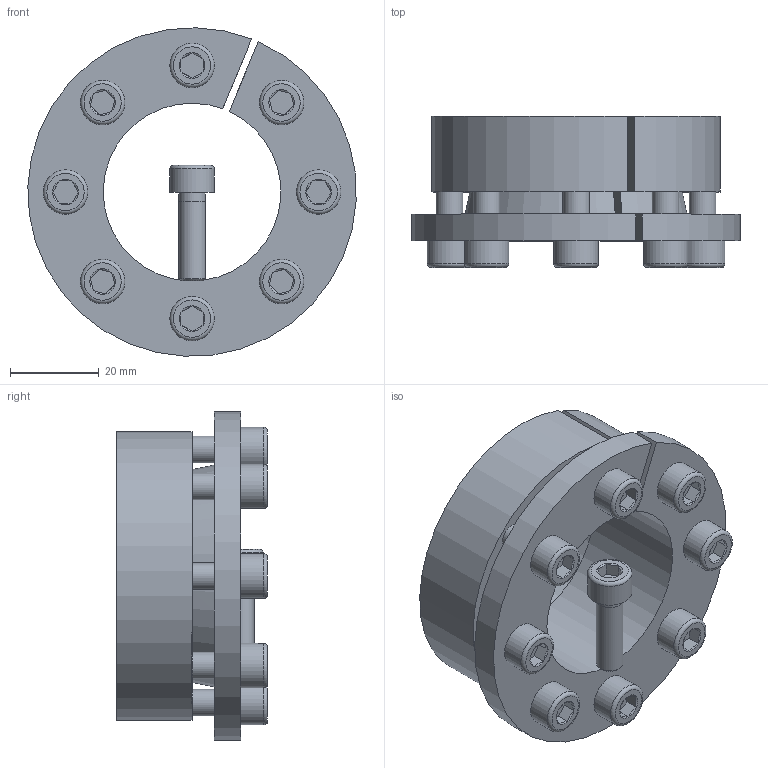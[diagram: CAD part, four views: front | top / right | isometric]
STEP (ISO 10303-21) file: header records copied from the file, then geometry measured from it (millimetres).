
FILE_DESCRIPTION( ( 'Unknown' ), '1' );
FILE_NAME( 'C:/Dokumente und Einstellungen/Sven/Desktop/homepage/cad - homepage/KBS16/KBS 16 - 40 x 65.stp', 'Unknown', ( 'Unknown' ), ( 'Unknown' ), 'XStep 1.0', 'Unknown', ' ' );
FILE_SCHEMA( ( 'automotive_design' ) );
Length unit declared in the file: millimetre
Products named in the file (3): Assem1; KBS 16 - 40 x 65; ISO EN DIN 4762 M6x20
Bounding box: 73.92 x 34 x 73.95 mm (x, y, z)
Volume: 109475.6 mm3; surface area: 49519.7 mm2
Topology: 11 solids, 11 shells, 281 faces, 557 edges, 334 vertices
Faces by surface type: plane 122, cylinder 74, cone 67, torus 18
Full cylindrical faces by diameter (mm): 5 x9, 6 x50, 10 x9
Entity records: 1798 total; most frequent: CARTESIAN_POINT 293, DIRECTION 272, ORIENTED_EDGE 194, AXIS2_PLACEMENT_3D 122, EDGE_LOOP 112, EDGE_CURVE 97, FACE_OUTER_BOUND 75, VERTEX_POINT 75
